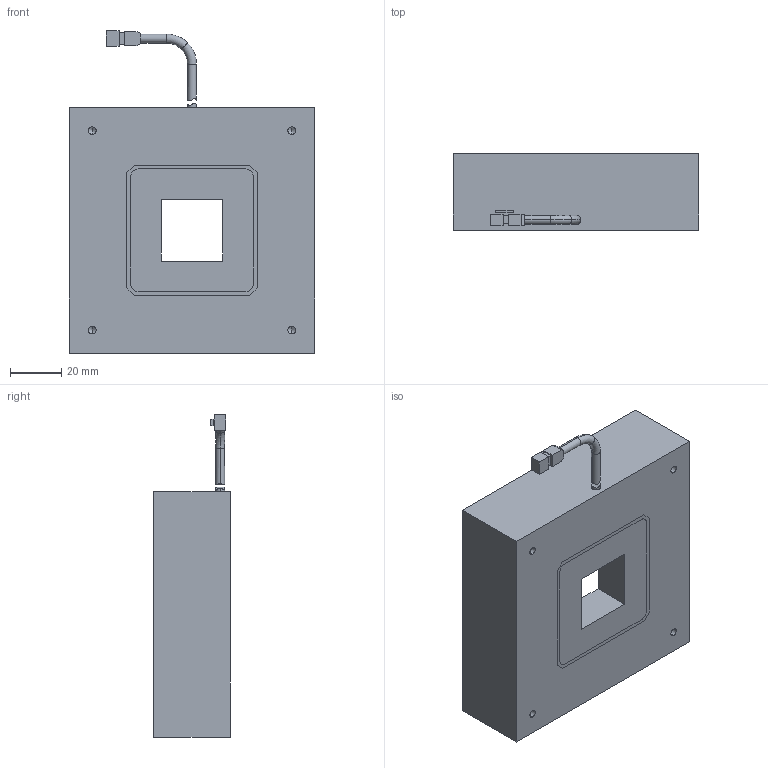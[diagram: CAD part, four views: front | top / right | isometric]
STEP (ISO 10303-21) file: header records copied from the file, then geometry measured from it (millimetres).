
FILE_DESCRIPTION(/* description */ (''),/* implementation_level */ '2;1');
FILE_NAME(/* name */ 'CST-FQS96-简易3D图.STEP',/* time_stamp */ '2022-10-20T15:37:16+08:00',/* author */ (''),/* organization */ (''),/* preprocessor_version */ 'ST-DEVELOPER v16',/* originating_system */ 'SIEMENS PLM Software NX 10.0',/* authorisation */ '');
FILE_SCHEMA (('AUTOMOTIVE_DESIGN { 1 0 10303 214 3 1 1 1 }'));
Length unit declared in the file: millimetre
Products named in the file (1): CST-FQS70-简易3D图_stp
Bounding box: 96 x 30 x 126 mm (x, y, z)
Volume: 198763 mm3; surface area: 57271.7 mm2
Topology: 5 solids, 5 shells, 174 faces, 440 edges, 277 vertices
Faces by surface type: plane 98, cylinder 52, cone 18, torus 4, extrusion 2
Entity records: 5321 total; most frequent: CARTESIAN_POINT 1053, DIRECTION 882, ORIENTED_EDGE 852, EDGE_CURVE 426, VECTOR 312, LINE 310, AXIS2_PLACEMENT_3D 285, VERTEX_POINT 277
